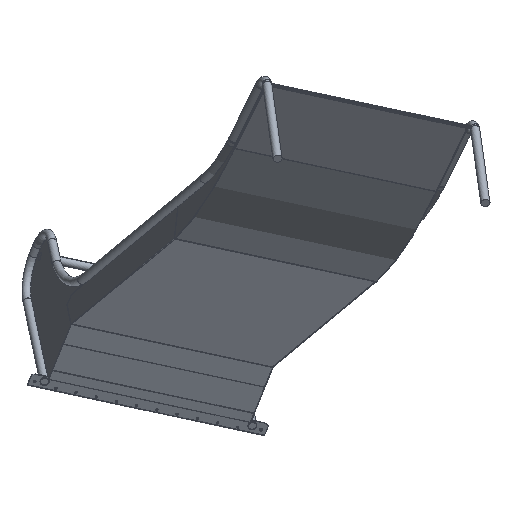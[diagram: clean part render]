
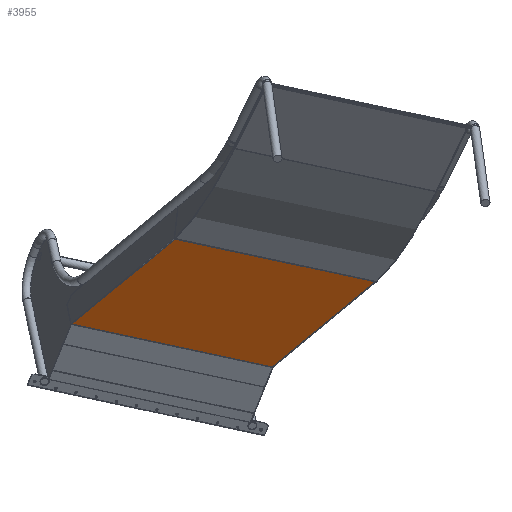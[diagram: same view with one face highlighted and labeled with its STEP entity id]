
A CAD part, isometric view. The second image highlights one B-rep face of the part: STEP entity #3955.
In plain terms, the highlighted planar face has unit normal (-0.644, -0.497, -0.582) as drawn and (0, -1, 0) by its records, which use the part's own axes.
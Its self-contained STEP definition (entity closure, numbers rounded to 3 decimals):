
#559=FACE_OUTER_BOUND('',#794,.T.);
#794=EDGE_LOOP('',(#3080,#3081,#3082,#3083,#3084,#3085,#3086,#3087));
#1138=LINE('',#7022,#1494);
#1140=LINE('',#7034,#1496);
#1147=LINE('',#7242,#1503);
#1148=LINE('',#7244,#1504);
#1149=LINE('',#7246,#1505);
#1150=LINE('',#7248,#1506);
#1151=LINE('',#7250,#1507);
#1152=LINE('',#7251,#1508);
#1494=VECTOR('',#5227,10.);
#1496=VECTOR('',#5231,10.);
#1503=VECTOR('',#5246,10.);
#1504=VECTOR('',#5247,10.);
#1505=VECTOR('',#5248,10.);
#1506=VECTOR('',#5249,10.);
#1507=VECTOR('',#5250,10.);
#1508=VECTOR('',#5251,10.);
#1811=VERTEX_POINT('',#6998);
#1815=VERTEX_POINT('',#7009);
#1822=VERTEX_POINT('',#7033);
#1829=VERTEX_POINT('',#7241);
#1830=VERTEX_POINT('',#7243);
#1831=VERTEX_POINT('',#7245);
#1832=VERTEX_POINT('',#7247);
#1833=VERTEX_POINT('',#7249);
#2263=EDGE_CURVE('',#1815,#1811,#1138,.T.);
#2266=EDGE_CURVE('',#1811,#1822,#1140,.T.);
#2276=EDGE_CURVE('',#1815,#1829,#1147,.T.);
#2277=EDGE_CURVE('',#1829,#1830,#1148,.T.);
#2278=EDGE_CURVE('',#1830,#1831,#1149,.T.);
#2279=EDGE_CURVE('',#1831,#1832,#1150,.T.);
#2280=EDGE_CURVE('',#1833,#1832,#1151,.T.);
#2281=EDGE_CURVE('',#1822,#1833,#1152,.T.);
#3080=ORIENTED_EDGE('',*,*,#2266,.F.);
#3081=ORIENTED_EDGE('',*,*,#2263,.F.);
#3082=ORIENTED_EDGE('',*,*,#2276,.T.);
#3083=ORIENTED_EDGE('',*,*,#2277,.T.);
#3084=ORIENTED_EDGE('',*,*,#2278,.T.);
#3085=ORIENTED_EDGE('',*,*,#2279,.T.);
#3086=ORIENTED_EDGE('',*,*,#2280,.F.);
#3087=ORIENTED_EDGE('',*,*,#2281,.F.);
#3793=PLANE('',#4448);
#3955=ADVANCED_FACE('',(#559),#3793,.F.);
#4448=AXIS2_PLACEMENT_3D('',#7240,#5244,#5245);
#5227=DIRECTION('',(0.,0.,1.));
#5231=DIRECTION('',(1.,0.,0.));
#5244=DIRECTION('center_axis',(0.,1.,0.));
#5245=DIRECTION('ref_axis',(0.,0.,1.));
#5246=DIRECTION('',(1.,0.,0.));
#5247=DIRECTION('',(0.,0.,1.));
#5248=DIRECTION('',(1.,0.,0.));
#5249=DIRECTION('',(0.,0.,1.));
#5250=DIRECTION('',(1.,0.,0.));
#5251=DIRECTION('',(0.,0.,-1.));
#6998=CARTESIAN_POINT('',(-1447.964,0.,-116.524));
#7009=CARTESIAN_POINT('',(-1447.964,0.,-1040.053));
#7022=CARTESIAN_POINT('',(-1447.964,0.,-222.38));
#7033=CARTESIAN_POINT('',(-98.919,0.,-116.524));
#7034=CARTESIAN_POINT('',(-456.675,0.,-116.524));
#7240=CARTESIAN_POINT('Origin',(-206.675,0.,-328.236));
#7241=CARTESIAN_POINT('',(-98.919,0.,-1040.053));
#7242=CARTESIAN_POINT('',(-355.82,0.,-1040.053));
#7243=CARTESIAN_POINT('',(-98.919,0.,-1039.053));
#7244=CARTESIAN_POINT('',(-98.919,0.,-685.144));
#7245=CARTESIAN_POINT('',(-97.342,0.,-1039.053));
#7246=CARTESIAN_POINT('',(-152.797,0.,-1039.053));
#7247=CARTESIAN_POINT('',(-97.342,0.,-118.236));
#7248=CARTESIAN_POINT('',(-97.342,0.,-223.236));
#7249=CARTESIAN_POINT('',(-98.919,0.,-118.236));
#7250=CARTESIAN_POINT('',(-98.919,0.,-118.236));
#7251=CARTESIAN_POINT('',(-98.919,0.,-113.712));
